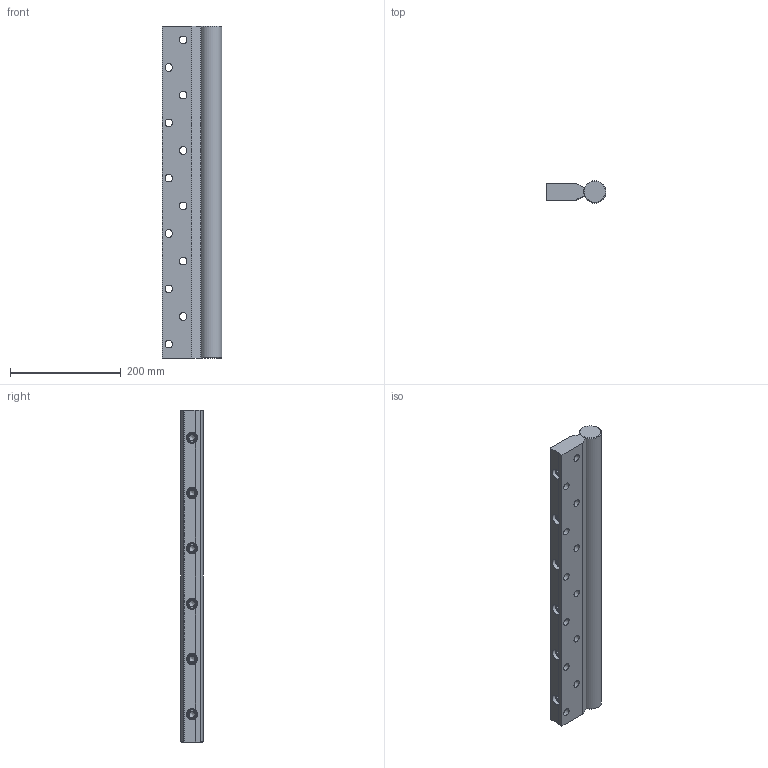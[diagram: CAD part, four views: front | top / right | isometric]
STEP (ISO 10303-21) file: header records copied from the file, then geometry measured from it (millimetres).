
FILE_DESCRIPTION(('STEP AP203'),'1');
FILE_NAME('SGY40-600.stp','2022-07-07T04:53:27',(' '),(' '),'Spatial InterOp 3D',' ',' ');
FILE_SCHEMA(('CONFIG_CONTROL_DESIGN'));
Length unit declared in the file: millimetre
Products named in the file (4): SGY40-600; M12-70; OP40-600_SRY; SRY-40
Assembly tree (8 placements, depth 2):
  SGY40-600
    M12-70  x6
    OP40-600_SRY
    SRY-40
Bounding box: 108 x 40 x 600 mm (x, y, z)
Volume: 1794160.8 mm3; surface area: 255388.7 mm2
Topology: 8 solids, 8 shells, 222 faces, 490 edges, 290 vertices
Faces by surface type: plane 92, cone 62, cylinder 62, torus 6
Full cylindrical faces by diameter (mm): 10.2 x12, 12 x6, 13.5 x12, 14 x6, 18 x6, 20 x18, 40 x1
Entity records: 4147 total; most frequent: CARTESIAN_POINT 1230, DIRECTION 555, ORIENTED_EDGE 412, AXIS2_PLACEMENT_3D 247, EDGE_LOOP 217, EDGE_CURVE 206, FACE_OUTER_BOUND 169, VERTEX_POINT 166
